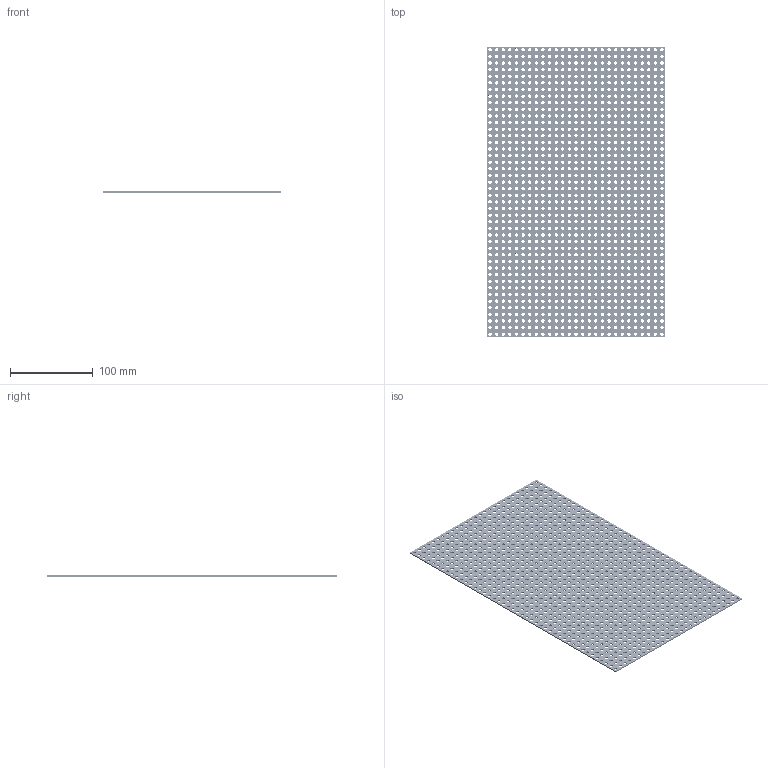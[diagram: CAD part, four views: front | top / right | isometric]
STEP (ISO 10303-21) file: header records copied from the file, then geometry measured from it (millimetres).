
FILE_DESCRIPTION(/* description */ ('STEP AP203'),/* implementation_level */ '2;1');
FILE_NAME(/* name */ '1127-0216-0352.step',/* time_stamp */ '2026-08-26T15:48:29-05:00',/* author */ (''),/* organization */ (''),/* preprocessor_version */ 'ST-DEVELOPER v20.1',/* originating_system */ 'Autodesk Translation Framework v15.8.0.0',/* authorisation */ '');
FILE_SCHEMA (('AUTOMOTIVE_DESIGN { 1 0 10303 214 3 1 1 }'));
Length unit declared in the file: millimetre
Products named in the file (1): 2026-08-25-12-50-54-949
Bounding box: 216 x 352 x 1.5 mm (x, y, z)
Volume: 91654.7 mm3; surface area: 146303.6 mm2
Topology: 1 solids, 1 shells, 1194 faces, 3576 edges, 2384 vertices
Faces by surface type: cylinder 1188, plane 6
Full cylindrical faces by diameter (mm): 4 x1188
Entity records: 46528 total; most frequent: DIRECTION 8342, CARTESIAN_POINT 7155, ORIENTED_EDGE 7152, EDGE_CURVE 3576, AXIS2_PLACEMENT_3D 3571, EDGE_LOOP 3570, VERTEX_POINT 2384, FACE_BOUND 2376
